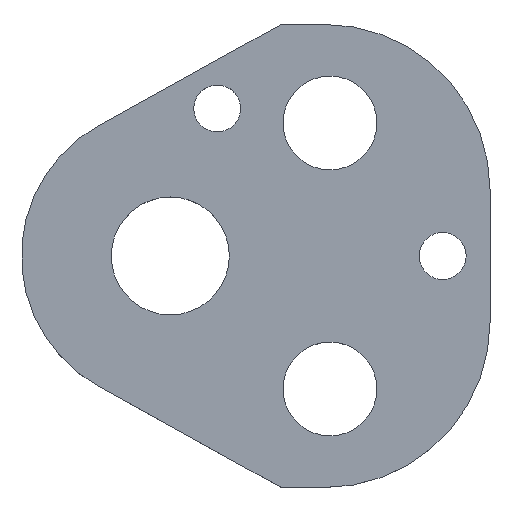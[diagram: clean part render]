
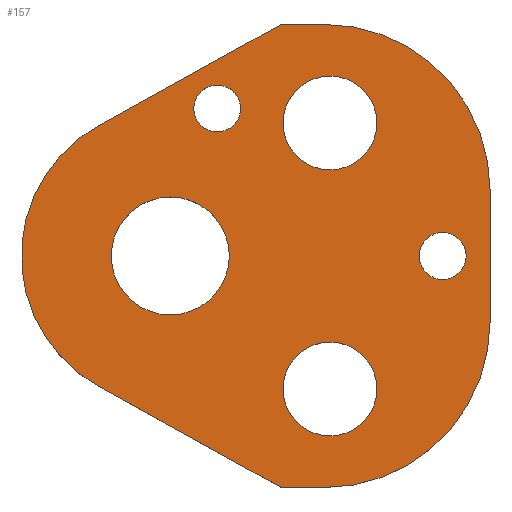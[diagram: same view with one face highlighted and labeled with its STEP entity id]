
A CAD part, top view. The second image highlights one B-rep face of the part: STEP entity #157.
In plain terms, the highlighted planar face has unit normal (0, 0, 1).
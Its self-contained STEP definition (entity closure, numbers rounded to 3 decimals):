
#103=FACE_BOUND('',#207,.T.);
#104=FACE_BOUND('',#208,.T.);
#105=FACE_BOUND('',#209,.T.);
#106=FACE_BOUND('',#210,.T.);
#107=FACE_BOUND('',#211,.T.);
#108=FACE_BOUND('',#212,.T.);
#122=CIRCLE('',#480,24.7);
#124=CIRCLE('',#484,24.7);
#127=CIRCLE('',#490,22.2);
#138=CIRCLE('',#503,7.);
#139=CIRCLE('',#504,7.);
#140=CIRCLE('',#505,3.5);
#141=CIRCLE('',#506,3.5);
#142=CIRCLE('',#507,7.);
#143=CIRCLE('',#508,7.);
#144=CIRCLE('',#509,3.5);
#145=CIRCLE('',#510,3.5);
#146=CIRCLE('',#511,8.8);
#147=CIRCLE('',#512,8.8);
#157=ADVANCED_FACE('',(#103,#104,#105,#106,#107,#108),#174,.T.);
#174=PLANE('',#513);
#207=EDGE_LOOP('',(#273,#274,#275,#276,#277,#278,#279,#280));
#208=EDGE_LOOP('',(#281,#282));
#209=EDGE_LOOP('',(#283,#284));
#210=EDGE_LOOP('',(#285,#286));
#211=EDGE_LOOP('',(#287,#288));
#212=EDGE_LOOP('',(#289,#290));
#273=ORIENTED_EDGE('',*,*,#368,.T.);
#274=ORIENTED_EDGE('',*,*,#372,.T.);
#275=ORIENTED_EDGE('',*,*,#375,.T.);
#276=ORIENTED_EDGE('',*,*,#378,.T.);
#277=ORIENTED_EDGE('',*,*,#381,.T.);
#278=ORIENTED_EDGE('',*,*,#384,.T.);
#279=ORIENTED_EDGE('',*,*,#387,.T.);
#280=ORIENTED_EDGE('',*,*,#390,.T.);
#281=ORIENTED_EDGE('',*,*,#401,.T.);
#282=ORIENTED_EDGE('',*,*,#402,.T.);
#283=ORIENTED_EDGE('',*,*,#403,.T.);
#284=ORIENTED_EDGE('',*,*,#404,.T.);
#285=ORIENTED_EDGE('',*,*,#405,.T.);
#286=ORIENTED_EDGE('',*,*,#406,.T.);
#287=ORIENTED_EDGE('',*,*,#407,.T.);
#288=ORIENTED_EDGE('',*,*,#408,.T.);
#289=ORIENTED_EDGE('',*,*,#409,.T.);
#290=ORIENTED_EDGE('',*,*,#410,.T.);
#332=VERTEX_POINT('',#649);
#333=VERTEX_POINT('',#651);
#336=VERTEX_POINT('',#658);
#338=VERTEX_POINT('',#664);
#340=VERTEX_POINT('',#670);
#342=VERTEX_POINT('',#676);
#344=VERTEX_POINT('',#682);
#346=VERTEX_POINT('',#688);
#357=VERTEX_POINT('',#717);
#358=VERTEX_POINT('',#718);
#359=VERTEX_POINT('',#721);
#360=VERTEX_POINT('',#722);
#361=VERTEX_POINT('',#725);
#362=VERTEX_POINT('',#726);
#363=VERTEX_POINT('',#729);
#364=VERTEX_POINT('',#730);
#365=VERTEX_POINT('',#733);
#366=VERTEX_POINT('',#734);
#368=EDGE_CURVE('',#333,#332,#422,.T.);
#372=EDGE_CURVE('',#332,#336,#426,.T.);
#375=EDGE_CURVE('',#336,#338,#122,.T.);
#378=EDGE_CURVE('',#338,#340,#430,.T.);
#381=EDGE_CURVE('',#340,#342,#124,.T.);
#384=EDGE_CURVE('',#342,#344,#434,.T.);
#387=EDGE_CURVE('',#344,#346,#437,.T.);
#390=EDGE_CURVE('',#346,#333,#127,.T.);
#401=EDGE_CURVE('',#357,#358,#138,.T.);
#402=EDGE_CURVE('',#358,#357,#139,.T.);
#403=EDGE_CURVE('',#359,#360,#140,.T.);
#404=EDGE_CURVE('',#360,#359,#141,.T.);
#405=EDGE_CURVE('',#361,#362,#142,.T.);
#406=EDGE_CURVE('',#362,#361,#143,.T.);
#407=EDGE_CURVE('',#363,#364,#144,.T.);
#408=EDGE_CURVE('',#364,#363,#145,.T.);
#409=EDGE_CURVE('',#365,#366,#146,.T.);
#410=EDGE_CURVE('',#366,#365,#147,.T.);
#422=LINE('',#650,#450);
#426=LINE('',#659,#454);
#430=LINE('',#671,#458);
#434=LINE('',#683,#462);
#437=LINE('',#689,#465);
#450=VECTOR('',#527,1.);
#454=VECTOR('',#533,1.);
#458=VECTOR('',#545,1.);
#462=VECTOR('',#557,1.);
#465=VECTOR('',#562,1.);
#480=AXIS2_PLACEMENT_3D('',#665,#538,#539);
#484=AXIS2_PLACEMENT_3D('',#677,#550,#551);
#490=AXIS2_PLACEMENT_3D('',#693,#568,#569);
#503=AXIS2_PLACEMENT_3D('',#716,#594,#595);
#504=AXIS2_PLACEMENT_3D('',#719,#596,#597);
#505=AXIS2_PLACEMENT_3D('',#720,#598,#599);
#506=AXIS2_PLACEMENT_3D('',#723,#600,#601);
#507=AXIS2_PLACEMENT_3D('',#724,#602,#603);
#508=AXIS2_PLACEMENT_3D('',#727,#604,#605);
#509=AXIS2_PLACEMENT_3D('',#728,#606,#607);
#510=AXIS2_PLACEMENT_3D('',#731,#608,#609);
#511=AXIS2_PLACEMENT_3D('',#732,#610,#611);
#512=AXIS2_PLACEMENT_3D('',#735,#612,#613);
#513=AXIS2_PLACEMENT_3D('',#736,#614,#615);
#527=DIRECTION('',(0.875,-0.485,0.));
#533=DIRECTION('',(1.,0.,0.));
#538=DIRECTION('',(0.,0.,1.));
#539=DIRECTION('',(-0.707,0.707,0.));
#545=DIRECTION('',(0.,1.,0.));
#550=DIRECTION('',(0.,0.,1.));
#551=DIRECTION('',(-0.707,-0.707,0.));
#557=DIRECTION('',(-1.,0.,0.));
#562=DIRECTION('',(-0.875,-0.485,0.));
#568=DIRECTION('',(0.,0.,1.));
#569=DIRECTION('',(1.,0.,0.));
#594=DIRECTION('',(0.,0.,-1.));
#595=DIRECTION('',(-1.,0.,0.));
#596=DIRECTION('',(0.,0.,-1.));
#597=DIRECTION('',(1.,0.,0.));
#598=DIRECTION('',(0.,0.,-1.));
#599=DIRECTION('',(-1.,0.,0.));
#600=DIRECTION('',(0.,0.,-1.));
#601=DIRECTION('',(1.,0.,0.));
#602=DIRECTION('',(0.,0.,-1.));
#603=DIRECTION('',(-1.,0.,0.));
#604=DIRECTION('',(0.,0.,-1.));
#605=DIRECTION('',(1.,0.,0.));
#606=DIRECTION('',(0.,0.,-1.));
#607=DIRECTION('',(-1.,0.,0.));
#608=DIRECTION('',(0.,0.,-1.));
#609=DIRECTION('',(1.,0.,0.));
#610=DIRECTION('',(0.,0.,-1.));
#611=DIRECTION('',(-1.,0.,0.));
#612=DIRECTION('',(0.,0.,-1.));
#613=DIRECTION('',(1.,0.,0.));
#614=DIRECTION('',(0.,0.,1.));
#615=DIRECTION('',(-0.875,0.485,0.));
#649=CARTESIAN_POINT('',(16.539,-34.55,5.));
#650=CARTESIAN_POINT('',(16.539,-34.55,5.));
#651=CARTESIAN_POINT('',(-10.763,-19.417,5.));
#658=CARTESIAN_POINT('',(23.,-34.55,5.));
#659=CARTESIAN_POINT('',(16.539,-34.55,5.));
#664=CARTESIAN_POINT('',(47.7,-9.85,5.));
#665=CARTESIAN_POINT('',(23.,-9.85,5.));
#670=CARTESIAN_POINT('',(47.7,9.85,5.));
#671=CARTESIAN_POINT('',(47.7,9.85,5.));
#676=CARTESIAN_POINT('',(23.,34.55,5.));
#677=CARTESIAN_POINT('',(23.,9.85,5.));
#682=CARTESIAN_POINT('',(16.539,34.55,5.));
#683=CARTESIAN_POINT('',(16.539,34.55,5.));
#688=CARTESIAN_POINT('',(-10.763,19.417,5.));
#689=CARTESIAN_POINT('',(16.539,34.55,5.));
#693=CARTESIAN_POINT('',(0.,0.,5.));
#716=CARTESIAN_POINT('',(23.82,-19.84,5.));
#717=CARTESIAN_POINT('',(23.82,-12.84,5.));
#718=CARTESIAN_POINT('',(23.82,-26.84,5.));
#719=CARTESIAN_POINT('',(23.82,-19.84,5.));
#720=CARTESIAN_POINT('',(40.64,0.,5.));
#721=CARTESIAN_POINT('',(40.64,3.5,5.));
#722=CARTESIAN_POINT('',(40.64,-3.5,5.));
#723=CARTESIAN_POINT('',(40.64,0.,5.));
#724=CARTESIAN_POINT('',(23.82,19.84,5.));
#725=CARTESIAN_POINT('',(23.82,26.84,5.));
#726=CARTESIAN_POINT('',(23.82,12.84,5.));
#727=CARTESIAN_POINT('',(23.82,19.84,5.));
#728=CARTESIAN_POINT('',(7.,22.,5.));
#729=CARTESIAN_POINT('',(7.,25.5,5.));
#730=CARTESIAN_POINT('',(7.,18.5,5.));
#731=CARTESIAN_POINT('',(7.,22.,5.));
#732=CARTESIAN_POINT('',(0.,0.,5.));
#733=CARTESIAN_POINT('',(0.,8.8,5.));
#734=CARTESIAN_POINT('',(0.,-8.8,5.));
#735=CARTESIAN_POINT('',(0.,0.,5.));
#736=CARTESIAN_POINT('',(-10.763,-19.417,5.));
